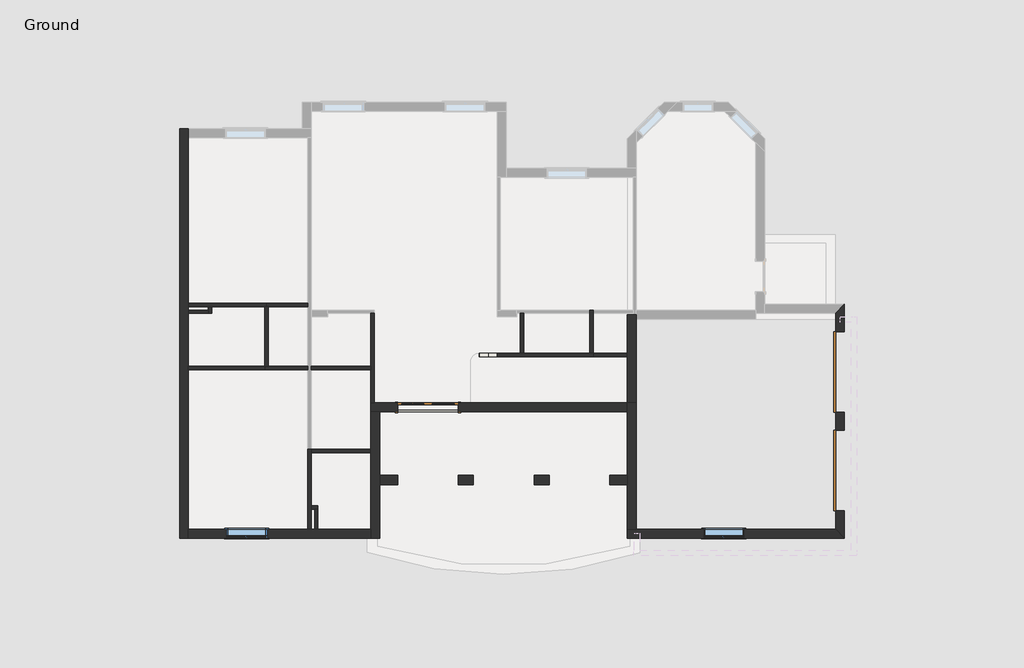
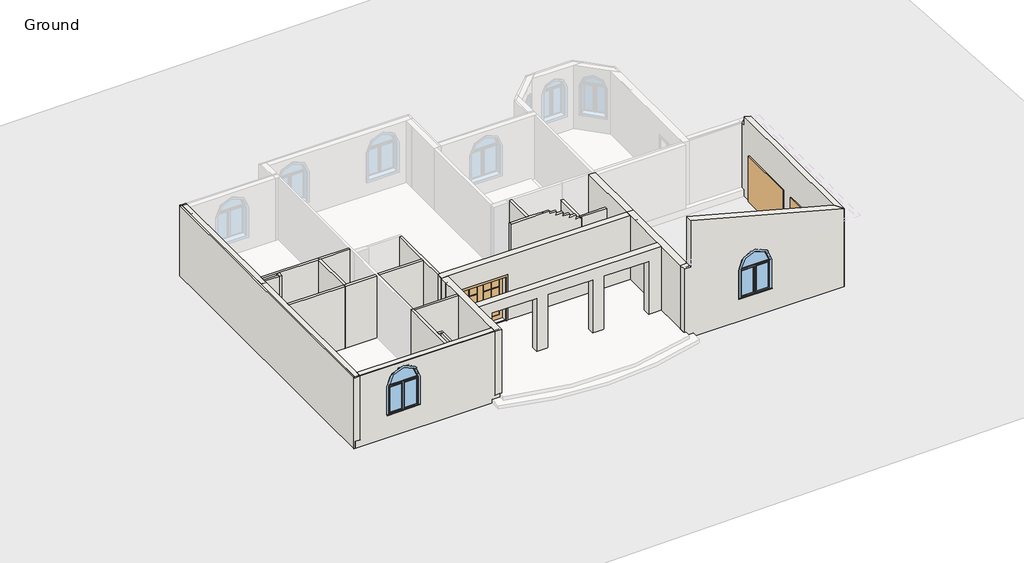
# One storey, part 1 of 3: 25 walls, 3 doors, 2 windows.
"""IFC4 building model written with IfcOpenShell, lengths in millimetres."""

from ifc_helpers import new_model, si_unit, frame, origin, origin_with_axes, place, context, project, spatial, polyline, circle_curve, outline, extrude, faceted_brep, transform, mapped, element, save
from ifc_brep_helpers import plane_surface, revolved_surface, advanced_brep
from components import m_double_glass_2_1830_x_1900mm_f983d492, m_overhead_sectional_2435_x_1981mm_e84f239d, m_overhead_sectional_2435_x_1981mm_f0762edc, window_1220_x_1220mm_cc1a8abd

model = new_model("IFC4")

# Units and contexts
model_context = context("Model", 3, world=origin())
ifc_project = project(units=[si_unit("LENGTHUNIT", "METRE", prefix="MILLI")], contexts=[model_context])

# Site, building, storey
site = spatial("IfcSite", under=ifc_project)
building = spatial("IfcBuilding", under=site)
storey = spatial("IfcBuildingStorey", under=building, Name="Ground", Elevation=0.0)

# Doors
placement = place(None, origin())
m_double_glass_2_1830_x_1900mm_shape = m_double_glass_2_1830_x_1900mm_f983d492(model_context)
element("IfcDoor", 1, ObjectType="M_Double-Glass 2 : 1830 x 1900mm", at=placement, inside=storey, context=model_context, shape_type="MappedRepresentation", body=[
    mapped(m_double_glass_2_1830_x_1900mm_shape, transform((-402.081946, -2630.1659495, 0.0), x_axis=(1.0, 0.0, 0.0), y_axis=(0.0, 1.0, 0.0), z_axis=(0.0, 0.0, 1.0))),
])
m_overhead_sectional_2435_x_1981mm_shape = m_overhead_sectional_2435_x_1981mm_e84f239d(model_context)
element("IfcDoor", 2, ObjectType="M_Overhead-Sectional : 2435 x 1981mm", at=placement, inside=storey, context=model_context, shape_type="MappedRepresentation", body=[
    mapped(m_overhead_sectional_2435_x_1981mm_shape, transform((12017.918054, -1560.1659495, -300.0), x_axis=(0.0, -1.0, 0.0), y_axis=(1.0, 0.0, 0.0), z_axis=(0.0, 0.0, 1.0))),
])
m_overhead_sectional_2435_x_1981mm_2_shape = m_overhead_sectional_2435_x_1981mm_f0762edc(model_context)
element("IfcDoor", 3, ObjectType="M_Overhead-Sectional : 2435 x 1981mm", at=placement, inside=storey, context=model_context, shape_type="MappedRepresentation", body=[
    mapped(m_overhead_sectional_2435_x_1981mm_2_shape, transform((12017.918054, -4530.1659495, -300.0), x_axis=(0.0, 1.0, 0.0), y_axis=(-1.0, 0.0, 0.0), z_axis=(0.0, 0.0, 1.0))),
])

# Walls
element("IfcWall", 4, ObjectType="Generic - 270 mm", at=placement, inside=storey, context=model_context, shape_type="Brep", body=[
    faceted_brep([(-7617.081946, 5774.8340505, 0.0), (-7617.081946, 5774.8340505, 2750.0), (-7617.081946, 5719.8340505, 2750.0), (-7617.081946, 5504.8340505, 2750.0), (-7617.081946, 504.8340505, 2750.0), (-7617.081946, 404.8340505, 2750.0), (-7617.081946, 304.8340505, 2750.0), (-7617.081946, 204.8340505, 2750.0), (-7617.081946, -1395.1659495, 2750.0), (-7617.081946, -1495.1659495, 2750.0), (-7617.081946, -6295.1659495, 2750.0), (-7617.081946, -6510.1659495, 2750.0), (-7617.081946, -6565.1659495, 2750.0), (-7617.081946, -6565.1659495, 0.0), (-7617.081946, -6510.1659495, 0.0), (-7617.081946, -6295.1659495, 0.0), (-7617.081946, -1495.1659495, 0.0), (-7617.081946, -1395.1659495, 0.0), (-7617.081946, 204.8340505, 0.0), (-7617.081946, 304.8340505, 0.0), (-7617.081946, 404.8340505, 0.0), (-7617.081946, 504.8340505, 0.0), (-7617.081946, 5504.8340505, 0.0), (-7617.081946, 5719.8340505, 0.0), (-7887.081946, 5774.8340505, 2750.0), (-7887.081946, 5774.8340505, -300.0), (-7887.081946, -6565.1659495, -300.0), (-7887.081946, -6565.1659495, 2750.0), (-7887.081946, -6510.1659495, 2750.0), (-7887.081946, 5719.8340505, 2750.0), (-7832.081946, 5774.8340505, 0.0), (-7832.081946, 5774.8340505, -300.0), (-7832.081946, 5774.8340505, 2750.0), (-7832.081946, -6565.1659495, 2750.0), (-7832.081946, -6565.1659495, -300.0), (-7832.081946, -6565.1659495, 0.0), (-7832.081946, -6510.1659495, 2750.0), (-7832.081946, 5719.8340505, 2750.0), (-7832.081946, -6510.1659495, 0.0), (-7832.081946, 5719.8340505, 0.0), (-7832.081946, -6510.1659495, -300.0), (-7832.081946, 5719.8340505, -300.0)], [[[0, 1, 2, 3, 4, 5, 6, 7, 8, 9, 10, 11, 12, 13, 14, 15, 16, 17, 18, 19, 20, 21, 22, 23]], [[24, 25, 26, 27, 28, 29]], [[1, 0, 30, 31, 25, 24, 32]], [[13, 12, 33, 27, 26, 34, 35]], [[29, 28, 36, 37]], [[12, 11, 36, 33]], [[28, 27, 33, 36]], [[2, 1, 32, 37]], [[24, 29, 37, 32]], [[11, 10, 9, 8, 7, 6, 5, 4, 3, 2, 37, 36]], [[30, 0, 23, 22, 21, 20, 19, 18, 17, 16, 15, 14, 13, 35, 38, 39]], [[35, 34, 40, 41, 31, 30, 39, 38]], [[34, 26, 25, 31, 41, 40]]]),
])
element("IfcWall", 5, ObjectType="Generic - 270 mm", at=placement, inside=storey, context=model_context, shape_type="Brep", body=[
    faceted_brep([(11882.918054, 204.8340505, 2750.0), (11882.918054, 204.8340505, -300.0), (11882.918054, -342.6659495, -300.0), (11882.918054, -342.6659495, 1681.0), (11882.918054, -2777.6659495, 1681.0), (11882.918054, -2777.6659495, -300.0), (11882.918054, -3312.6659495, -300.0), (11882.918054, -3312.6659495, 1681.0), (11882.918054, -5747.6659495, 1681.0), (11882.918054, -5747.6659495, -300.0), (11882.918054, -6295.1659495, -300.0), (11882.918054, -6295.1659495, 3152.2286349), (11882.918054, 34.8340505, 3152.2286349), (11882.918054, 34.8340505, 2750.0), (12152.918054, 474.8340505, -300.0), (12152.918054, 474.8340505, 2750.0), (12152.918054, 34.8340505, 2750.0), (12152.918054, 34.8340505, 3079.882353), (12152.918054, -6565.1659495, 3079.882353), (12152.918054, -6565.1659495, -300.0), (12152.918054, -5747.6659495, -300.0), (12152.918054, -5747.6659495, 1681.0), (12152.918054, -3312.6659495, 1681.0), (12152.918054, -3312.6659495, -300.0), (12152.918054, -2777.6659495, -300.0), (12152.918054, -2777.6659495, 1681.0), (12152.918054, -342.6659495, 1681.0), (12152.918054, -342.6659495, -300.0), (11947.918054, 269.8340505, 2750.0), (11982.918054, 304.8340505, 2750.0), (12097.918054, 419.8340505, -300.0), (12097.918054, -6510.1659495, -300.0), (12097.918054, -5747.6659495, -300.0), (12097.918054, -342.6659495, -300.0), (12097.918054, -3312.6659495, -300.0), (12097.918054, -2777.6659495, -300.0)], [[[0, 1, 2, 3, 4, 5, 6, 7, 8, 9, 10, 11, 12, 13]], [[14, 15, 16, 17, 18, 19, 20, 21, 22, 23, 24, 25, 26, 27]], [[1, 0, 28, 29, 15, 14, 30]], [[11, 10, 31, 19, 18]], [[31, 10, 9, 32]], [[1, 30, 33, 2]], [[34, 6, 5, 35]], [[30, 14, 27, 33]], [[19, 31, 32, 20]], [[23, 34, 35, 24]], [[15, 29, 28, 0, 13, 16]], [[16, 13, 12, 17]], [[12, 11, 18, 17]], [[22, 7, 6, 34, 23]], [[7, 22, 21, 8]], [[8, 21, 20, 32, 9]], [[4, 25, 24, 35, 5]], [[25, 4, 3, 26]], [[26, 3, 2, 33, 27]]]),
])
element("IfcWall", 6, ObjectType="Generic - 270 mm", at=placement, inside=storey, context=model_context, shape_type="AdvancedBrep", body=[
    advanced_brep(
    [(11882.918054, -6295.1659495, 3152.2286349), (11882.918054, -6295.1659495, 0.0), (5981.043054, -6295.1659495, 0.0), (5881.043054, -6295.1659495, 0.0), (5611.043054, -6295.1659495, 0.0), (5611.043054, -6295.1659495, 2700.0), (5611.043054, -6295.1659495, 2750.0), (5881.043054, -6295.1659495, 2750.0), (5881.043054, -6295.1659495, 4760.4261943), (7907.918054, -6295.1659495, 1919.05), (7907.918054, -6295.1659495, 680.0), (9127.918054, -6295.1659495, 680.0), (9127.918054, -6295.1659495, 1919.05), (12152.918054, -6565.1659495, -300.0), (12152.918054, -6565.1659495, 3079.882353), (5881.043054, -6565.1659495, 4760.4261943), (5881.043054, -6565.1659495, 2750.0), (5611.043054, -6565.1659495, 2750.0), (5611.043054, -6565.1659495, 0.0), (5682.918054, -6565.1659495, 0.0), (5682.918054, -6565.1659495, -150.0), (5981.043054, -6565.1659495, -150.0), (5981.043054, -6565.1659495, -300.0), (7907.918054, -6565.1659495, 680.0), (7907.918054, -6565.1659495, 1919.05), (9127.918054, -6565.1659495, 1919.05), (9127.918054, -6565.1659495, 680.0), (12097.918054, -6510.1659495, -300.0), (12097.918054, -6510.1659495, 0.0), (5881.043054, -6527.0964348, 2750.0), (5981.043054, -6510.1659495, 0.0), (5981.043054, -6535.1659495, 0.0), (5682.918054, -6535.1659495, 0.0), (5611.043054, -6510.1659495, 0.0), (5981.043054, -6510.1659495, -300.0), (5981.043054, -6535.1659495, -150.0), (5682.918054, -6535.1659495, -150.0)],
    [
        (0, 1),
        (1, 2),
        (2, 3),
        (3, 4),
        (4, 5),
        (5, 6),
        (6, 7),
        (7, 8),
        (8, 0),
        (9, 10),
        (10, 11),
        (11, 12),
        (12, 9, circle_curve(frame((8517.918054, -6295.1659495, 1919.05), z_axis=(0.0, -1.0, 0.0), x_axis=(-1.0, 0.0, 0.0)), 610.0)),
        (13, 14),
        (14, 15),
        (15, 16),
        (16, 17),
        (17, 18),
        (18, 19),
        (19, 20),
        (20, 21),
        (21, 22),
        (22, 13),
        (23, 24),
        (24, 25, circle_curve(frame((8517.918054, -6565.1659495, 1919.05), z_axis=(0.0, 1.0, 0.0), x_axis=(-1.0, 0.0, 0.0)), 610.0)),
        (25, 26),
        (26, 23),
        (0, 14),
        (13, 27),
        (27, 28),
        (28, 1),
        (29, 16),
        (15, 8),
        (7, 29),
        (28, 30),
        (30, 31),
        (31, 32),
        (32, 19),
        (18, 33),
        (33, 4),
        (27, 34),
        (34, 30),
        (22, 34),
        (6, 17),
        (9, 24),
        (23, 10),
        (26, 11),
        (25, 12),
        (35, 31),
        (21, 35),
        (36, 35),
        (20, 36),
        (36, 32),
    ],
    [
        plane_surface(frame((12152.918054, -6295.1659495, 0.0), z_axis=(0.0, 1.0, 0.0), x_axis=(-1.0, 0.0, 0.0))),
        plane_surface(frame((12152.918054, -6565.1659495, 0.0), z_axis=(0.0, -1.0, 0.0), x_axis=(1.0, 0.0, 0.0))),
        plane_surface(frame((12152.918054, -6565.1659495, 0.0), z_axis=(0.707106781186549, 0.7071067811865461, 0.0), x_axis=(-0.7071067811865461, 0.707106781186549, 0.0))),
        plane_surface(frame((5881.043054, -2495.1659495, 2750.0), z_axis=(-1.0, 0.0, 0.0), x_axis=(0.0, 0.0, 1.0))),
        plane_surface(frame((12017.918054, -6295.1659495, 0.0), z_axis=(0.0, 0.0, -1.0), x_axis=(0.0, -1.0, 0.0))),
        plane_surface(frame((12017.918054, -6510.1659495, 0.0), z_axis=(0.0, 1.0, 0.0), x_axis=(-1.0, 0.0, 0.0))),
        plane_surface(frame((0.0, 0.0, -300.0), z_axis=(0.0, 0.0, -1.0), x_axis=(1.0, 0.0, 0.0))),
        plane_surface(frame((-7832.081946, 5719.8340505, 2750.0), z_axis=(0.0, 0.0, 1.0), x_axis=(1.0, 0.0, 0.0))),
        plane_surface(frame((12451.043054, -7035.1659495, 3000.0), z_axis=(0.2588190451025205, 0.0, 0.9659258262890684), x_axis=(0.0, 1.0, 0.0))),
        plane_surface(frame((5611.043054, -6565.1659495, 0.0), z_axis=(-1.0, 0.0, 0.0), x_axis=(0.0, -1.0, 0.0))),
        plane_surface(frame((7907.918054, -6295.1659495, 1919.05), z_axis=(1.0, 0.0, 0.0), x_axis=(0.0, -1.0, 0.0))),
        plane_surface(frame((7907.918054, -6295.1659495, 680.0), z_axis=(0.0, 0.0, 1.0), x_axis=(0.0, -1.0, 0.0))),
        plane_surface(frame((9127.918054, -6295.1659495, 680.0), z_axis=(-1.0, 0.0, 0.0), x_axis=(0.0, -1.0, 0.0))),
        revolved_surface(polyline([(7907.918054, -6565.1659495, 1919.05), (7907.918054, -6295.1659495, 1919.05)]), (8517.918054, -6295.1659495, 1919.05), (0.0, -1.0, 0.0)),
        plane_surface(frame((5981.043054, -6295.1659495, -300.0), z_axis=(-1.0, 0.0, 0.0), x_axis=(0.0, 0.0, 1.0))),
        plane_surface(frame((14569.3774222, 4983.1673839, -150.0), z_axis=(0.0, 0.0, -1.0), x_axis=(0.0, -1.0, 0.0))),
        plane_surface(frame((5982.918054, -6535.1659495, 0.0), z_axis=(0.0, 1.0, 0.0), x_axis=(0.0, 0.0, -1.0))),
        plane_surface(frame((5682.918054, -6535.1659495, 0.0), z_axis=(-1.0, 0.0, 0.0), x_axis=(0.0, 0.0, -1.0))),
    ],
    [
        (0, [[1, 2, 3, 4, 5, 6, 7, 8, 9], [10, 11, 12, 13]]),
        (1, [[14, 15, 16, 17, 18, 19, 20, 21, 22, 23], [24, 25, 26, 27]]),
        (2, [[-1, 28, -14, 29, 30, 31]]),
        (3, [[32, -16, 33, -8, 34]]),
        (4, [[-31, 35, 36, 37, 38, -19, 39, 40, -4, -3, -2]]),
        (5, [[-30, 41, 42, -35]]),
        (6, [[-29, -23, 43, -41]]),
        (7, [[-32, -34, -7, 44, -17]]),
        (8, [[-33, -15, -28, -9]]),
        (9, [[-40, -39, -18, -44, -6, -5]]),
        (10, [[-10, 45, -24, 46]]),
        (11, [[-11, -46, -27, 47]]),
        (12, [[-12, -47, -26, 48]]),
        (13, [[-13, -48, -25, -45]]),
        (14, [[49, -36, -42, -43, -22, 50]]),
        (15, [[51, -50, -21, 52]]),
        (16, [[-37, -49, -51, 53]]),
        (17, [[-53, -52, -20, -38]]),
    ],
),
])
element("IfcWall", 7, ObjectType="Generic - 270 mm", at=placement, inside=storey, context=model_context, shape_type="Brep", body=[
    faceted_brep([(5611.043054, -2495.1659495, 2750.0), (5611.043054, -2495.1659495, 0.0), (512.918054, -2495.1659495, 0.0), (512.918054, -2495.1659495, 1900.0), (-1317.081946, -2495.1659495, 1900.0), (-1317.081946, -2495.1659495, 0.0), (-2017.081946, -2495.1659495, 0.0), (-2117.081946, -2495.1659495, 0.0), (-2117.081946, -2495.1659495, 2750.0), (-2017.081946, -2495.1659495, 2750.0), (1721.043054, -2495.1659495, 2750.0), (5611.043054, -2765.1659495, 2750.0), (-1847.081946, -2765.1659495, 2750.0), (-2117.081946, -2765.1659495, 2750.0), (-2117.081946, -2765.1659495, 0.0), (-2117.081946, -2765.1659495, -300.0), (-1902.081946, -2765.1659495, -300.0), (-1847.081946, -2765.1659495, -300.0), (5611.043054, -2765.1659495, -300.0), (512.918054, -2765.1659495, 1900.0), (512.918054, -2765.1659495, 0.0), (-1317.081946, -2765.1659495, 0.0), (-1317.081946, -2765.1659495, 1900.0), (5611.043054, -2710.1659495, -300.0), (5611.043054, -2710.1659495, 0.0), (-2117.081946, -2710.1659495, 0.0), (-2117.081946, -2710.1659495, -300.0), (-1317.081946, -2710.1659495, 0.0), (512.918054, -2710.1659495, 0.0)], [[[0, 1, 2, 3, 4, 5, 6, 7, 8, 9, 10]], [[11, 12, 13, 14, 15, 16, 17, 18], [19, 20, 21, 22]], [[1, 0, 11, 18, 23, 24]], [[8, 7, 25, 26, 15, 14, 13]], [[25, 7, 6, 5, 27]], [[1, 24, 28, 2]], [[24, 23, 26, 25, 27, 28]], [[23, 18, 17, 16, 15, 26]], [[13, 12, 11, 0, 10, 9, 8]], [[28, 20, 19, 3, 2]], [[3, 19, 22, 4]], [[4, 22, 21, 27, 5]], [[20, 28, 27, 21]]]),
])
element("IfcWall", 8, ObjectType="Generic - 270 mm", at=placement, inside=storey, context=model_context, shape_type="Brep", body=[
    faceted_brep([(-2117.081946, -2765.1659495, 0.0), (-2117.081946, -3895.1659495, 0.0), (-2117.081946, -3995.1659495, 0.0), (-2117.081946, -6295.1659495, 0.0), (-2117.081946, -6565.1659495, 0.0), (-2117.081946, -6565.1659495, 2750.0), (-2117.081946, -6295.1659495, 2750.0), (-2117.081946, -3995.1659495, 2750.0), (-2117.081946, -3895.1659495, 2750.0), (-2117.081946, -2765.1659495, 2750.0), (-1847.081946, -2765.1659495, -300.0), (-1847.081946, -2765.1659495, 2750.0), (-1847.081946, -4675.1659495, 2750.0), (-1847.081946, -4965.1659495, 2750.0), (-1847.081946, -6565.1659495, 2750.0), (-1847.081946, -6565.1659495, -300.0), (-1917.081946, -6565.1659495, 0.0), (-1902.081946, -6565.1659495, 0.0), (-1902.081946, -6565.1659495, -300.0), (-1902.081946, -2765.1659495, -300.0), (-1902.081946, -2765.1659495, 0.0)], [[[0, 1, 2, 3, 4, 5, 6, 7, 8, 9]], [[10, 11, 12, 13, 14, 15]], [[5, 4, 16, 17, 18, 15, 14]], [[0, 9, 11, 10, 19, 20]], [[9, 8, 7, 6, 5, 14, 13, 12, 11]], [[4, 3, 2, 1, 0, 20, 17, 16]], [[17, 20, 19, 18]], [[19, 10, 15, 18]]]),
])
element("IfcWall", 9, ObjectType="Generic - 270 mm", at=placement, inside=storey, context=model_context, shape_type="AdvancedBrep", body=[
    advanced_brep(
    [(-2117.081946, -6295.1659495, 0.0), (-3717.081946, -6295.1659495, 0.0), (-3817.081946, -6295.1659495, 0.0), (-3917.081946, -6295.1659495, 0.0), (-4017.081946, -6295.1659495, 0.0), (-7617.081946, -6295.1659495, 0.0), (-7617.081946, -6295.1659495, 2750.0), (-4017.081946, -6295.1659495, 2750.0), (-3917.081946, -6295.1659495, 2750.0), (-3817.081946, -6295.1659495, 2750.0), (-3717.081946, -6295.1659495, 2750.0), (-2117.081946, -6295.1659495, 2750.0), (-6469.581946, -6295.1659495, 1919.05), (-6469.581946, -6295.1659495, 680.0), (-5249.581946, -6295.1659495, 680.0), (-5249.581946, -6295.1659495, 1919.05), (-2117.081946, -6565.1659495, 2750.0), (-7617.081946, -6565.1659495, 2750.0), (-7617.081946, -6565.1659495, 0.0), (-7832.081946, -6565.1659495, 0.0), (-7832.081946, -6565.1659495, -300.0), (-2232.081946, -6565.1659495, -300.0), (-2232.081946, -6565.1659495, -150.0), (-1917.081946, -6565.1659495, -150.0), (-1917.081946, -6565.1659495, 0.0), (-2117.081946, -6565.1659495, 0.0), (-6469.581946, -6565.1659495, 680.0), (-6469.581946, -6565.1659495, 1919.05), (-5249.581946, -6565.1659495, 1919.05), (-5249.581946, -6565.1659495, 680.0), (-7617.081946, -6510.1659495, 0.0), (-7617.081946, -6510.1659495, 2750.0), (-2117.081946, -6535.1659495, 0.0), (-2117.081946, -6510.1659495, 2750.0), (-2532.081946, -6510.1659495, 2750.0), (-2232.081946, -6535.1659495, 0.0), (-2232.081946, -6510.1659495, 0.0), (-7832.081946, -6510.1659495, 0.0), (-2232.081946, -6510.1659495, -300.0), (-7832.081946, -6510.1659495, -300.0), (-1917.081946, -6535.1659495, 0.0), (-2232.081946, -6535.1659495, -150.0), (-1917.081946, -6535.1659495, -150.0)],
    [
        (0, 1),
        (1, 2),
        (2, 3),
        (3, 4),
        (4, 5),
        (5, 6),
        (6, 7),
        (7, 8),
        (8, 9),
        (9, 10),
        (10, 11),
        (11, 0),
        (12, 13),
        (13, 14),
        (14, 15),
        (15, 12, circle_curve(frame((-5859.581946, -6295.1659495, 1919.05), z_axis=(0.0, -1.0, 0.0), x_axis=(-1.0, 0.0, 0.0)), 610.0)),
        (16, 17),
        (17, 18),
        (18, 19),
        (19, 20),
        (20, 21),
        (21, 22),
        (22, 23),
        (23, 24),
        (24, 25),
        (25, 16),
        (26, 27),
        (27, 28, circle_curve(frame((-5859.581946, -6565.1659495, 1919.05), z_axis=(0.0, 1.0, 0.0), x_axis=(-1.0, 0.0, 0.0)), 610.0)),
        (28, 29),
        (29, 26),
        (5, 30),
        (30, 18),
        (17, 31),
        (31, 6),
        (32, 0),
        (11, 33),
        (33, 16),
        (25, 32),
        (33, 34),
        (34, 31),
        (32, 35),
        (35, 36),
        (36, 30),
        (37, 30),
        (36, 38),
        (38, 39),
        (39, 37),
        (20, 39),
        (38, 21),
        (37, 19),
        (24, 40),
        (40, 32),
        (12, 27),
        (26, 13),
        (29, 14),
        (28, 15),
        (35, 41),
        (41, 22),
        (41, 42),
        (42, 23),
        (42, 40),
    ],
    [
        plane_surface(frame((-1847.081946, -6295.1659495, 0.0), z_axis=(0.0, 1.0, 0.0), x_axis=(-1.0, 0.0, 0.0))),
        plane_surface(frame((-1847.081946, -6565.1659495, 0.0), z_axis=(0.0, -1.0, 0.0), x_axis=(1.0, 0.0, 0.0))),
        plane_surface(frame((-7617.081946, -6565.1659495, 0.0), z_axis=(-1.0, 0.0, 0.0), x_axis=(0.0, 1.0, 0.0))),
        plane_surface(frame((-2117.081946, -2765.1659495, 0.0), z_axis=(1.0, 0.0, 0.0), x_axis=(0.0, -1.0, 0.0))),
        plane_surface(frame((-7752.081946, -6295.1659495, 2750.0), z_axis=(0.0, 0.0, 1.0), x_axis=(0.0, -1.0, 0.0))),
        plane_surface(frame((-7832.081946, 5719.8340505, 2750.0), z_axis=(0.0, 0.0, 1.0), x_axis=(1.0, 0.0, 0.0))),
        plane_surface(frame((-1982.081946, -6295.1659495, 0.0), z_axis=(0.0, 0.0, -1.0), x_axis=(0.0, -1.0, 0.0))),
        plane_surface(frame((-1982.081946, -6510.1659495, 0.0), z_axis=(0.0, 1.0, 0.0), x_axis=(-1.0, 0.0, 0.0))),
        plane_surface(frame((0.0, 0.0, -300.0), z_axis=(0.0, 0.0, -1.0), x_axis=(1.0, 0.0, 0.0))),
        plane_surface(frame((-1982.081946, -6565.1659495, 0.0), z_axis=(0.0, 0.0, 1.0), x_axis=(1.0, 0.0, 0.0))),
        plane_surface(frame((-7832.081946, -6565.1659495, -300.0), z_axis=(-1.0, 0.0, 0.0), x_axis=(0.0, 0.0, 1.0))),
        plane_surface(frame((-1982.081946, -6510.1659495, 0.0), z_axis=(0.0, 0.0, 1.0), x_axis=(-1.0, 0.0, 0.0))),
        plane_surface(frame((-6469.581946, -7819.1659495, 1919.05), z_axis=(1.0, 0.0, 0.0), x_axis=(0.0, 1.0, 0.0))),
        plane_surface(frame((-6469.581946, -7819.1659495, 680.0), z_axis=(0.0, 0.0, 1.0), x_axis=(0.0, 1.0, 0.0))),
        plane_surface(frame((-5249.581946, -7819.1659495, 680.0), z_axis=(-1.0, 0.0, 0.0), x_axis=(0.0, 1.0, 0.0))),
        revolved_surface(polyline([(-6469.581946, -6565.1659495, 1919.05), (-6469.581946, -6295.1659495, 1919.05)]), (-5859.581946, -4771.1659495, 1919.05), (0.0, -1.0, 0.0)),
        plane_surface(frame((-2232.081946, -6996.3560841, -300.0), z_axis=(1.0, 0.0, 0.0), x_axis=(0.0, 0.0, 1.0))),
        plane_surface(frame((14569.3774222, 4983.1673839, -150.0), z_axis=(0.0, 0.0, -1.0), x_axis=(0.0, -1.0, 0.0))),
        plane_surface(frame((-1917.081946, -6805.1659495, 0.0), z_axis=(1.0, 0.0, 0.0), x_axis=(0.0, 0.0, -1.0))),
        plane_surface(frame((-1917.081946, -6535.1659495, 0.0), z_axis=(0.0, 1.0, 0.0), x_axis=(0.0, 0.0, -1.0))),
    ],
    [
        (0, [[1, 2, 3, 4, 5, 6, 7, 8, 9, 10, 11, 12], [13, 14, 15, 16]]),
        (1, [[17, 18, 19, 20, 21, 22, 23, 24, 25, 26], [27, 28, 29, 30]]),
        (2, [[-6, 31, 32, -18, 33, 34]]),
        (3, [[35, -12, 36, 37, -26, 38]]),
        (4, [[-17, -37, 39, 40, -33]]),
        (5, [[-36, -11, -10, -9, -8, -7, -34, -40, -39]]),
        (6, [[-5, -4, -3, -2, -1, -35, 41, 42, 43, -31]]),
        (7, [[44, -43, 45, 46, 47]]),
        (8, [[48, -46, 49, -21]]),
        (9, [[-19, -32, -44, 50]]),
        (10, [[-48, -20, -50, -47]]),
        (11, [[-38, -25, 51, 52]]),
        (12, [[53, -27, 54, -13]]),
        (13, [[-54, -30, 55, -14]]),
        (14, [[-55, -29, 56, -15]]),
        (15, [[-53, -16, -56, -28]]),
        (16, [[-42, 57, 58, -22, -49, -45]]),
        (17, [[59, 60, -23, -58]]),
        (18, [[61, -51, -24, -60]]),
        (19, [[-57, -41, -52, -61, -59]]),
    ],
),
])
element("IfcWall", 10, ObjectType="Generic - 270 mm Brick on both sides", at=placement, inside=storey, context=model_context, shape_type="Brep", body=[
    faceted_brep([(5881.043054, -6295.1659495, 0.0), (5881.043054, -2495.1659495, 0.0), (5881.043054, -2495.1659495, 2750.0), (5881.043054, -6295.1659495, 2750.0), (5611.043054, -2495.1659495, 2750.0), (5611.043054, -2495.1659495, 0.0), (5611.043054, -2495.1659495, -300.0), (5611.043054, -2710.1659495, -300.0), (5611.043054, -2765.1659495, -300.0), (5611.043054, -6510.1659495, -300.0), (5611.043054, -6510.1659495, 0.0), (5611.043054, -6295.1659495, 0.0), (5611.043054, -6295.1659495, 2750.0), (5611.043054, -4965.1659495, 2750.0), (5611.043054, -4675.1659495, 2750.0), (5611.043054, -2765.1659495, 2750.0), (5646.043054, -2495.1659495, 0.0), (5646.043054, -2495.1659495, -300.0), (5646.043054, -6295.1659495, 0.0), (5646.043054, -6510.1659495, 0.0), (5646.043054, -6510.1659495, -300.0)], [[[0, 1, 2, 3]], [[4, 5, 6, 7, 8, 9, 10, 11, 12, 13, 14, 15]], [[2, 1, 16, 17, 6, 5, 4]], [[0, 3, 12, 11, 18]], [[3, 2, 4, 15, 14, 13, 12]], [[1, 0, 18, 16]], [[16, 18, 19, 20, 17]], [[9, 8, 7, 6, 17, 20]], [[19, 18, 11, 10]], [[9, 20, 19, 10]]]),
])
element("IfcWall", 11, ObjectType="Generic - 270 mm Brick on both sides", at=placement, inside=storey, context=model_context, shape_type="Brep", body=[
    faceted_brep([(5881.043054, -2495.1659495, 0.0), (5881.043054, 34.8340505, 0.0), (5881.043054, 169.8340505, 0.0), (5881.043054, 169.8340505, 2750.0), (5881.043054, 34.8340505, 2750.0), (5881.043054, -2495.1659495, 2750.0), (5611.043054, -2495.1659495, 0.0), (5611.043054, -2495.1659495, 2750.0), (5611.043054, 169.8340505, 2750.0), (5611.043054, 169.8340505, 0.0), (5611.043054, -995.1659495, 0.0), (5611.043054, -1095.1659495, 0.0), (5846.043054, 169.8340505, 0.0), (5781.043054, 169.8340505, 0.0), (5781.043054, 169.8340505, 2750.0), (5646.043054, -2495.1659495, 0.0), (5846.043054, -2495.1659495, 0.0)], [[[0, 1, 2, 3, 4, 5]], [[6, 7, 8, 9, 10, 11]], [[3, 2, 12, 13, 9, 8, 14]], [[5, 4, 3, 14, 8, 7]], [[0, 5, 7, 6, 15, 16]], [[16, 15, 6, 11, 10, 9, 13, 12]], [[2, 1, 0, 16, 12]]]),
])
element("IfcWall", 12, ObjectType="Generic - 290 mm - Ext Balcony", at=placement, inside=storey, context=model_context, shape_type="SweptSolid", body=[
    extrude(outline(polyline([(0.0, 5611.043054), (2750.0, 5611.043054), (2750.0, -1847.081946), (0.0, -1847.081946), (0.0, -1317.081946), (2300.0, -1317.081946), (2300.0, 512.918054), (0.0, 512.918054), (0.0, 967.918054), (2300.0, 967.918054), (2300.0, 2797.918054), (0.0, 2797.918054), (0.0, 3252.918054), (2300.0, 3252.918054), (2300.0, 5082.918054), (0.0, 5082.918054), (0.0, 5611.043054)])), frame((0.0, -4965.1659495, 0.0), z_axis=(0.0, 1.0, 0.0), x_axis=(0.0, 0.0, 1.0)), (0.0, 0.0, 1.0), 290.0),
])
element("IfcWall", 13, ObjectType="Interior - 100mm Partition (2-hr)", at=placement, inside=storey, context=model_context, shape_type="Brep", body=[
    faceted_brep([(-7617.081946, 404.8340505, 0.0), (-7017.081946, 404.8340505, 0.0), (-6917.081946, 404.8340505, 0.0), (-5317.081946, 404.8340505, 0.0), (-5267.081946, 404.8340505, 0.0), (-5267.081946, 404.8340505, 2750.0), (-5317.081946, 404.8340505, 2750.0), (-6917.081946, 404.8340505, 2750.0), (-7017.081946, 404.8340505, 2750.0), (-7617.081946, 404.8340505, 2750.0), (-7617.081946, 504.8340505, 0.0), (-7617.081946, 504.8340505, 2750.0), (-5267.081946, 504.8340505, 2750.0), (-5267.081946, 504.8340505, 0.0)], [[[0, 1, 2, 3, 4, 5, 6, 7, 8, 9]], [[10, 11, 12, 13]], [[4, 3, 2, 1, 0, 10, 13]], [[5, 4, 13, 12]], [[0, 9, 11, 10]], [[9, 8, 7, 6, 5, 12, 11]]]),
])
element("IfcWall", 14, ObjectType="Interior - 100mm Partition (2-hr)", at=placement, inside=storey, context=model_context, shape_type="Brep", body=[
    faceted_brep([(-5317.081946, 404.8340505, 0.0), (-5317.081946, -1395.1659495, 0.0), (-5317.081946, -1395.1659495, 2750.0), (-5317.081946, 404.8340505, 2750.0), (-5217.081946, 404.8340505, 0.0), (-5217.081946, 404.8340505, 2750.0), (-5217.081946, -1395.1659495, 2750.0), (-5217.081946, -1395.1659495, 0.0), (-5267.081946, 404.8340505, 0.0), (-5267.081946, 404.8340505, 2750.0)], [[[0, 1, 2, 3]], [[4, 5, 6, 7]], [[1, 0, 8, 4, 7]], [[2, 1, 7, 6]], [[0, 3, 9, 5, 4, 8]], [[3, 2, 6, 5, 9]]]),
])
element("IfcWall", 15, ObjectType="Interior - 100mm Partition (2-hr)", at=placement, inside=storey, context=model_context, shape_type="SweptSolid", body=[
    extrude(outline(polyline([(-5317.081946, -1495.1659495), (-7617.081946, -1495.1659495), (-7617.081946, -1395.1659495), (-5317.081946, -1395.1659495), (-5317.081946, -1495.1659495)])), origin_with_axes(), (0.0, 0.0, 1.0), 2750.0),
])
element("IfcWall", 16, ObjectType="Interior - 100mm Partition (2-hr)", at=placement, inside=storey, context=model_context, shape_type="Brep", body=[
    faceted_brep([(-7017.081946, 404.8340505, 0.0), (-7017.081946, 304.8340505, 0.0), (-7017.081946, 204.8340505, 0.0), (-7017.081946, 204.8340505, 2750.0), (-7017.081946, 304.8340505, 2750.0), (-7017.081946, 404.8340505, 2750.0), (-6917.081946, 404.8340505, 0.0), (-6917.081946, 404.8340505, 2750.0), (-6917.081946, 204.8340505, 2750.0), (-6917.081946, 204.8340505, 0.0)], [[[0, 1, 2, 3, 4, 5]], [[6, 7, 8, 9]], [[2, 1, 0, 6, 9]], [[3, 2, 9, 8]], [[0, 5, 7, 6]], [[5, 4, 3, 8, 7]]]),
])
element("IfcWall", 17, ObjectType="Interior - 100mm Partition (2-hr)", at=placement, inside=storey, context=model_context, shape_type="SweptSolid", body=[
    extrude(outline(polyline([(-7617.081946, 304.8340505), (-7017.081946, 304.8340505), (-7017.081946, 204.8340505), (-7617.081946, 204.8340505), (-7617.081946, 304.8340505)])), origin_with_axes(), (0.0, 0.0, 1.0), 2750.0),
])
element("IfcWall", 18, ObjectType="Interior - 100mm Partition (2-hr)", at=placement, inside=storey, context=model_context, shape_type="Brep", body=[
    faceted_brep([(1682.918054, -1095.1659495, 400.0), (1433.9238093, -1095.1659495, 400.0), (1458.9238093, -1095.1659495, 250.0), (1163.9238093, -1095.1659495, 250.0), (1188.9238093, -1095.1659495, 100.0), (1142.918054, -1095.1659495, 100.0), (1142.918054, -1095.1659495, 0.0), (4582.918054, -1095.1659495, 0.0), (4582.918054, -1095.1659495, 2025.0), (4532.918054, -1095.1659495, 2025.0), (4532.918054, -1095.1659495, 2050.0), (4336.9122987, -1095.1659495, 2050.0), (4361.9122987, -1095.1659495, 2200.0), (4066.9122987, -1095.1659495, 2200.0), (4091.9122987, -1095.1659495, 2350.0), (3796.9122987, -1095.1659495, 2350.0), (3821.9122987, -1095.1659495, 2500.0), (3526.9122987, -1095.1659495, 2500.0), (3551.9122987, -1095.1659495, 2650.0), (3256.9122987, -1095.1659495, 2650.0), (3273.5789654, -1095.1659495, 2750.0), (3031.043054, -1095.1659495, 2750.0), (1721.043054, -1095.1659495, 2750.0), (1682.918054, -1095.1659495, 2750.0), (1682.918054, -995.1659495, 400.0), (1682.918054, -995.1659495, 2750.0), (1721.043054, -995.1659495, 2750.0), (2382.918054, -995.1659495, 2750.0), (2482.918054, -995.1659495, 2750.0), (3031.043054, -995.1659495, 2750.0), (3273.5789654, -995.1659495, 2750.0), (3256.9122987, -995.1659495, 2650.0), (3551.9122987, -995.1659495, 2650.0), (3526.9122987, -995.1659495, 2500.0), (3821.9122987, -995.1659495, 2500.0), (3796.9122987, -995.1659495, 2350.0), (4091.9122987, -995.1659495, 2350.0), (4066.9122987, -995.1659495, 2200.0), (4361.9122987, -995.1659495, 2200.0), (4336.9122987, -995.1659495, 2050.0), (4532.918054, -995.1659495, 2050.0), (4532.918054, -995.1659495, 2025.0), (4582.918054, -995.1659495, 2025.0), (4582.918054, -995.1659495, 0.0), (4482.918054, -995.1659495, 0.0), (2482.918054, -995.1659495, 0.0), (2382.918054, -995.1659495, 0.0), (1142.918054, -995.1659495, 0.0), (1142.918054, -995.1659495, 100.0), (1188.9238093, -995.1659495, 100.0), (1163.9238093, -995.1659495, 250.0), (1458.9238093, -995.1659495, 250.0), (1433.9238093, -995.1659495, 400.0), (1721.043054, -1035.1659495, 2750.0)], [[[0, 1, 2, 3, 4, 5, 6, 7, 8, 9, 10, 11, 12, 13, 14, 15, 16, 17, 18, 19, 20, 21, 22, 23]], [[24, 25, 26, 27, 28, 29, 30, 31, 32, 33, 34, 35, 36, 37, 38, 39, 40, 41, 42, 43, 44, 45, 46, 47, 48, 49, 50, 51, 52]], [[1, 0, 24, 52]], [[2, 1, 52, 51]], [[3, 2, 51, 50]], [[4, 3, 50, 49]], [[5, 4, 49, 48]], [[6, 5, 48, 47]], [[7, 6, 47, 46, 45, 44, 43]], [[11, 10, 40, 39]], [[12, 11, 39, 38]], [[13, 12, 38, 37]], [[14, 13, 37, 36]], [[15, 14, 36, 35]], [[16, 15, 35, 34]], [[17, 16, 34, 33]], [[18, 17, 33, 32]], [[19, 18, 32, 31]], [[20, 19, 31, 30]], [[0, 23, 25, 24]], [[10, 9, 41, 40]], [[41, 9, 8, 42]], [[8, 7, 43, 42]], [[21, 20, 30, 29]], [[22, 21, 29, 28, 27, 26, 53]], [[23, 22, 53, 26, 25]]]),
])
element("IfcWall", 19, ObjectType="Interior - 100mm Partition (2-hr)", at=placement, inside=storey, context=model_context, shape_type="Brep", body=[
    faceted_brep([(4582.918054, -995.1659495, 0.0), (4582.918054, 204.8340505, 0.0), (4582.918054, 304.8340505, 0.0), (4582.918054, 304.8340505, 2025.0), (4582.918054, 204.8340505, 2025.0), (4582.918054, -995.1659495, 2025.0), (4482.918054, -995.1659495, 0.0), (4482.918054, -995.1659495, 2025.0), (4482.918054, 204.8340505, 2025.0), (4482.918054, 304.8340505, 2025.0), (4482.918054, 304.8340505, 0.0), (4482.918054, 204.8340505, 0.0), (4532.918054, 304.8340505, 2025.0), (4532.918054, -995.1659495, 2025.0)], [[[0, 1, 2, 3, 4, 5]], [[6, 7, 8, 9, 10, 11]], [[2, 1, 0, 6, 11, 10]], [[5, 4, 3, 12, 9, 8, 7, 13]], [[3, 2, 10, 9, 12]], [[0, 5, 13, 7, 6]]]),
])
element("IfcWall", 20, ObjectType="Interior - 100mm Partition (2-hr)", at=placement, inside=storey, context=model_context, shape_type="SweptSolid", body=[
    extrude(outline(polyline([(2382.918054, -995.1659495), (2382.918054, 204.8340505), (2482.918054, 204.8340505), (2482.918054, -995.1659495), (2382.918054, -995.1659495)])), origin_with_axes(), (0.0, 0.0, 1.0), 2750.0),
])
element("IfcWall", 21, ObjectType="Interior - 100mm Partition (2-hr)", at=placement, inside=storey, context=model_context, shape_type="Brep", body=[
    faceted_brep([(-3917.081946, -6295.1659495, 0.0), (-3917.081946, -5695.1659495, 0.0), (-3917.081946, -5595.1659495, 0.0), (-3917.081946, -3995.1659495, 0.0), (-3917.081946, -3895.1659495, 0.0), (-3917.081946, -3895.1659495, 2750.0), (-3917.081946, -3995.1659495, 2750.0), (-3917.081946, -5595.1659495, 2750.0), (-3917.081946, -5695.1659495, 2750.0), (-3917.081946, -6295.1659495, 2750.0), (-4017.081946, -6295.1659495, 0.0), (-4017.081946, -6295.1659495, 2750.0), (-4017.081946, -3895.1659495, 2750.0), (-4017.081946, -3895.1659495, 0.0)], [[[0, 1, 2, 3, 4, 5, 6, 7, 8, 9]], [[10, 11, 12, 13]], [[4, 3, 2, 1, 0, 10, 13]], [[5, 4, 13, 12]], [[0, 9, 11, 10]], [[9, 8, 7, 6, 5, 12, 11]]]),
])
element("IfcWall", 22, ObjectType="Interior - 100mm Partition (2-hr)", at=placement, inside=storey, context=model_context, shape_type="SweptSolid", body=[
    extrude(outline(polyline([(-2117.081946, -3995.1659495), (-3917.081946, -3995.1659495), (-3917.081946, -3895.1659495), (-2117.081946, -3895.1659495), (-2117.081946, -3995.1659495)])), origin_with_axes(), (0.0, 0.0, 1.0), 2750.0),
])
element("IfcWall", 23, ObjectType="Interior - 100mm Partition (2-hr)", at=placement, inside=storey, context=model_context, shape_type="Brep", body=[
    faceted_brep([(-3917.081946, -5695.1659495, 0.0), (-3817.081946, -5695.1659495, 0.0), (-3717.081946, -5695.1659495, 0.0), (-3717.081946, -5695.1659495, 2750.0), (-3817.081946, -5695.1659495, 2750.0), (-3917.081946, -5695.1659495, 2750.0), (-3917.081946, -5595.1659495, 0.0), (-3917.081946, -5595.1659495, 2750.0), (-3717.081946, -5595.1659495, 2750.0), (-3717.081946, -5595.1659495, 0.0)], [[[0, 1, 2, 3, 4, 5]], [[6, 7, 8, 9]], [[2, 1, 0, 6, 9]], [[3, 2, 9, 8]], [[0, 5, 7, 6]], [[5, 4, 3, 8, 7]]]),
])
element("IfcWall", 24, ObjectType="Interior - 100mm Partition (2-hr)", at=placement, inside=storey, context=model_context, shape_type="SweptSolid", body=[
    extrude(outline(polyline([(-3817.081946, -6295.1659495), (-3817.081946, -5695.1659495), (-3717.081946, -5695.1659495), (-3717.081946, -6295.1659495), (-3817.081946, -6295.1659495)])), origin_with_axes(), (0.0, 0.0, 1.0), 2750.0),
])
element("IfcWall", 25, ObjectType="Interior -100mm Partition (1-hr)", at=placement, inside=storey, context=model_context, shape_type="SweptSolid", body=[
    extrude(outline(polyline([(0.0, 5611.043054), (2050.0, 5611.043054), (2050.0, 4532.918054), (2025.0, 4532.918054), (2025.0, 4582.918054), (0.0, 4582.918054), (0.0, 5611.043054)])), frame((0.0, -1095.1659495, 0.0), z_axis=(0.0, 1.0, 0.0), x_axis=(0.0, 0.0, 1.0)), (0.0, 0.0, 1.0), 100.0),
])
element("IfcWall", 26, ObjectType="Interior -100mm Partition (1-hr)", at=placement, inside=storey, context=model_context, shape_type="Brep", body=[
    faceted_brep([(-2117.081946, -1495.1659495, 0.0), (-2117.081946, -1495.1659495, 2750.0), (-3917.081946, -1495.1659495, 2750.0), (-3917.081946, -1495.1659495, 0.0), (-2117.081946, -1395.1659495, 2750.0), (-2117.081946, -1395.1659495, 0.0), (-3917.081946, -1395.1659495, 0.0), (-3917.081946, -1395.1659495, 2750.0)], [[[0, 1, 2, 3]], [[4, 5, 6, 7]], [[5, 0, 3, 6]], [[1, 0, 5, 4]], [[1, 4, 7, 2]], [[3, 2, 7, 6]]]),
    faceted_brep([(-5317.081946, -1495.1659495, 2750.0), (-5317.081946, -1495.1659495, 0.0), (-4017.081946, -1495.1659495, 0.0), (-4017.081946, -1495.1659495, 2750.0), (-5317.081946, -1395.1659495, 0.0), (-5317.081946, -1395.1659495, 2750.0), (-5217.081946, -1395.1659495, 2750.0), (-4017.081946, -1395.1659495, 2750.0), (-4017.081946, -1395.1659495, 0.0), (-5217.081946, -1395.1659495, 0.0)], [[[0, 1, 2, 3]], [[4, 5, 6, 7, 8, 9]], [[1, 4, 9, 8, 2]], [[1, 0, 5, 4]], [[5, 0, 3, 7, 6]], [[3, 2, 8, 7]]]),
])
element("IfcWall", 27, ObjectType="Interior -100mm Partition (1-hr)", at=placement, inside=storey, context=model_context, shape_type="Brep", body=[
    faceted_brep([(-2117.081946, 204.8340505, 0.0), (-2117.081946, -1395.1659495, 0.0), (-2117.081946, -1495.1659495, 0.0), (-2117.081946, -2495.1659495, 0.0), (-2117.081946, -2495.1659495, 2750.0), (-2117.081946, -1495.1659495, 2750.0), (-2117.081946, -1395.1659495, 2750.0), (-2117.081946, 204.8340505, 2750.0), (-2017.081946, 204.8340505, 0.0), (-2017.081946, 204.8340505, 2750.0), (-2017.081946, -2495.1659495, 2750.0), (-2017.081946, -2495.1659495, 0.0)], [[[0, 1, 2, 3, 4, 5, 6, 7]], [[8, 9, 10, 11]], [[3, 2, 1, 0, 8, 11]], [[4, 3, 11, 10]], [[0, 7, 9, 8]], [[7, 6, 5, 4, 10, 9]]]),
])
element("IfcWall", 28, ObjectType="Interior -100mm Partition (1-hr)", at=placement, inside=storey, context=model_context, shape_type="Brep", body=[
    faceted_brep([(-4017.081946, 504.8340505, 0.0), (-5267.081946, 504.8340505, 0.0), (-5267.081946, 504.8340505, 2750.0), (-4017.081946, 504.8340505, 2750.0), (-4017.081946, 404.8340505, 0.0), (-4017.081946, 404.8340505, 2750.0), (-5217.081946, 404.8340505, 2750.0), (-5267.081946, 404.8340505, 2750.0), (-5267.081946, 404.8340505, 0.0), (-5217.081946, 404.8340505, 0.0)], [[[0, 1, 2, 3]], [[4, 5, 6, 7, 8, 9]], [[1, 0, 4, 9, 8]], [[2, 1, 8, 7]], [[0, 3, 5, 4]], [[3, 2, 7, 6, 5]]]),
])

# Windows
window_1220_x_1220mm_shape = window_1220_x_1220mm_cc1a8abd(model_context)
element("IfcWindow", 29, ObjectType="M_Combination Rtp with Trim : 1220 x 1220mm", at=placement, inside=storey, context=model_context, shape_type="MappedRepresentation", body=[
    mapped(window_1220_x_1220mm_shape, transform((-5851.5797879, -6430.1659495, -235.0), x_axis=(-1.0, 0.0, 0.0), y_axis=(0.0, -1.0, 0.0), z_axis=(0.0, 0.0, 1.0))),
])
element("IfcWindow", 30, ObjectType="M_Combination Rtp with Trim : 1220 x 1220mm", at=placement, inside=storey, context=model_context, shape_type="MappedRepresentation", body=[
    mapped(window_1220_x_1220mm_shape, transform((8525.9202121, -6430.1659495, -235.0), x_axis=(-1.0, 0.0, 0.0), y_axis=(0.0, -1.0, 0.0), z_axis=(0.0, 0.0, 1.0))),
])

save(model, "model.ifc")
